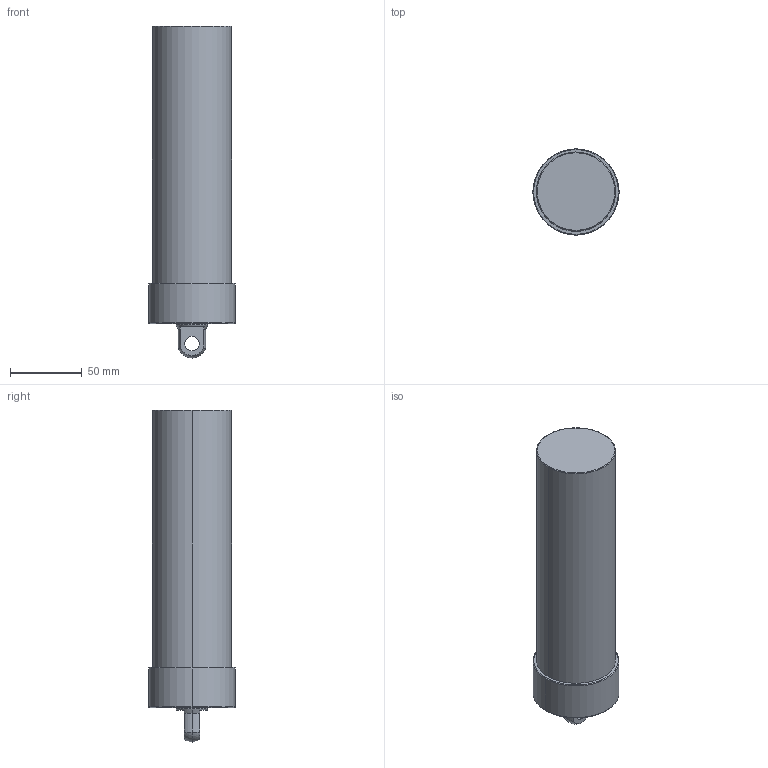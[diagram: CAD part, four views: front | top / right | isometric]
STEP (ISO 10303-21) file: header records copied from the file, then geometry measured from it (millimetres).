
FILE_DESCRIPTION (( 'STEP AP203' ), '1' );
FILE_NAME ('CLLU-055GP-150.STEP', '2020-01-06T07:50:35', ( '' ), ( '' ), 'SwSTEP 2.0', 'SolidWorks 2015', '' );
FILE_SCHEMA (( 'CONFIG_CONTROL_DESIGN' ));
Length unit declared in the file: millimetre
Products named in the file (1): CLLU-055GP-150
Bounding box: 60 x 60 x 231 mm (x, y, z)
Volume: 506670.9 mm3; surface area: 44182.7 mm2
Topology: 1 solids, 1 shells, 58 faces, 131 edges, 75 vertices
Faces by surface type: cylinder 23, cone 18, plane 9, torus 6, sphere 2
Entity records: 1658 total; most frequent: DIRECTION 311, CARTESIAN_POINT 269, ORIENTED_EDGE 246, AXIS2_PLACEMENT_3D 133, EDGE_CURVE 123, VERTEX_POINT 75, CIRCLE 74, EDGE_LOOP 68
